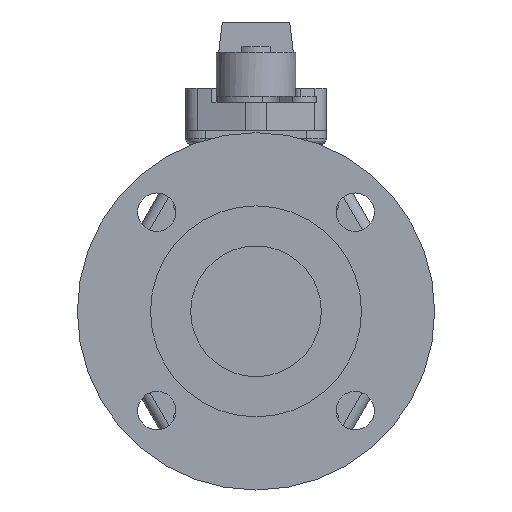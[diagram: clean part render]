
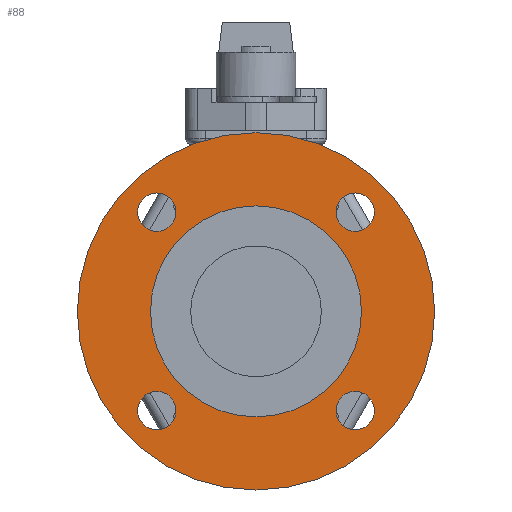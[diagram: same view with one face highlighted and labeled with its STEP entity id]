
A CAD part, left-side view. The second image highlights one B-rep face of the part: STEP entity #88.
In plain terms, the highlighted planar face has unit normal (-1, 0, 0).
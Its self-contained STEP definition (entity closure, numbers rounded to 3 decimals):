
#88=ADVANCED_FACE('',(#463,#464,#465,#466,#467,#468),#462,.T.);
#462=PLANE('',#2888);
#463=FACE_OUTER_BOUND('',#2889,.T.);
#464=FACE_BOUND('',#2890,.T.);
#465=FACE_BOUND('',#2891,.T.);
#466=FACE_BOUND('',#2892,.T.);
#467=FACE_BOUND('',#2893,.T.);
#468=FACE_BOUND('',#2894,.T.);
#2885=CARTESIAN_POINT('',(-93.4,-163.979,-187.8));
#2886=DIRECTION('',(-1.,0.,0.));
#2887=DIRECTION('',(0.,0.,1.));
#2888=AXIS2_PLACEMENT_3D('',#2885,#2886,#2887);
#2889=EDGE_LOOP('',(#4350,#4351));
#2890=EDGE_LOOP('',(#4352,#4353));
#2891=EDGE_LOOP('',(#4354,#4355));
#2892=EDGE_LOOP('',(#4356,#4357));
#2893=EDGE_LOOP('',(#4358,#4359));
#2894=EDGE_LOOP('',(#4360,#4361));
#4350=ORIENTED_EDGE('',*,*,#5582,.T.);
#4351=ORIENTED_EDGE('',*,*,#5583,.T.);
#4352=ORIENTED_EDGE('',*,*,#5584,.F.);
#4353=ORIENTED_EDGE('',*,*,#5585,.F.);
#4354=ORIENTED_EDGE('',*,*,#5586,.F.);
#4355=ORIENTED_EDGE('',*,*,#5587,.F.);
#4356=ORIENTED_EDGE('',*,*,#5588,.F.);
#4357=ORIENTED_EDGE('',*,*,#5589,.F.);
#4358=ORIENTED_EDGE('',*,*,#5590,.F.);
#4359=ORIENTED_EDGE('',*,*,#5591,.F.);
#4360=ORIENTED_EDGE('',*,*,#5592,.F.);
#4361=ORIENTED_EDGE('',*,*,#5593,.F.);
#5582=EDGE_CURVE('',#6911,#6912,#6913,.T.);
#5583=EDGE_CURVE('',#6912,#6911,#6919,.T.);
#5584=EDGE_CURVE('',#6925,#6926,#6927,.T.);
#5585=EDGE_CURVE('',#6926,#6925,#6933,.T.);
#5586=EDGE_CURVE('',#6939,#6940,#6941,.T.);
#5587=EDGE_CURVE('',#6940,#6939,#6947,.T.);
#5588=EDGE_CURVE('',#6953,#6954,#6955,.T.);
#5589=EDGE_CURVE('',#6954,#6953,#6961,.T.);
#5590=EDGE_CURVE('',#6967,#6968,#6969,.T.);
#5591=EDGE_CURVE('',#6968,#6967,#6975,.T.);
#5592=EDGE_CURVE('',#6981,#6982,#6983,.T.);
#5593=EDGE_CURVE('',#6982,#6981,#6989,.T.);
#6911=VERTEX_POINT('',#10723);
#6912=VERTEX_POINT('',#10724);
#6913=CIRCLE('',#10728,88.9);
#6919=CIRCLE('',#10732,88.9);
#6925=VERTEX_POINT('',#10733);
#6926=VERTEX_POINT('',#10734);
#6927=CIRCLE('',#10738,9.55);
#6933=CIRCLE('',#10742,9.55);
#6939=VERTEX_POINT('',#10743);
#6940=VERTEX_POINT('',#10744);
#6941=CIRCLE('',#10748,9.55);
#6947=CIRCLE('',#10752,9.55);
#6953=VERTEX_POINT('',#10753);
#6954=VERTEX_POINT('',#10754);
#6955=CIRCLE('',#10758,9.55);
#6961=CIRCLE('',#10762,9.55);
#6967=VERTEX_POINT('',#10763);
#6968=VERTEX_POINT('',#10764);
#6969=CIRCLE('',#10768,9.55);
#6975=CIRCLE('',#10772,9.55);
#6981=VERTEX_POINT('',#10773);
#6982=VERTEX_POINT('',#10774);
#6983=CIRCLE('',#10778,52.5);
#6989=CIRCLE('',#10782,52.5);
#10723=CARTESIAN_POINT('',(-93.4,0.,88.9));
#10724=CARTESIAN_POINT('',(-93.4,0.,-88.9));
#10725=CARTESIAN_POINT('',(-93.4,0.,0.));
#10726=DIRECTION('',(-1.,0.,0.));
#10727=DIRECTION('',(0.,0.,1.));
#10728=AXIS2_PLACEMENT_3D('',#10725,#10726,#10727);
#10729=CARTESIAN_POINT('',(-93.4,0.,0.));
#10730=DIRECTION('',(-1.,0.,0.));
#10731=DIRECTION('',(0.,0.,1.));
#10732=AXIS2_PLACEMENT_3D('',#10729,#10730,#10731);
#10733=CARTESIAN_POINT('',(-93.4,49.391,-39.841));
#10734=CARTESIAN_POINT('',(-93.4,49.391,-58.941));
#10735=CARTESIAN_POINT('',(-93.4,49.391,-49.391));
#10736=DIRECTION('',(-1.,0.,0.));
#10737=DIRECTION('',(0.,0.,-1.));
#10738=AXIS2_PLACEMENT_3D('',#10735,#10736,#10737);
#10739=CARTESIAN_POINT('',(-93.4,49.391,-49.391));
#10740=DIRECTION('',(-1.,0.,0.));
#10741=DIRECTION('',(0.,0.,-1.));
#10742=AXIS2_PLACEMENT_3D('',#10739,#10740,#10741);
#10743=CARTESIAN_POINT('',(-93.4,-49.391,-58.941));
#10744=CARTESIAN_POINT('',(-93.4,-49.391,-39.841));
#10745=CARTESIAN_POINT('',(-93.4,-49.391,-49.391));
#10746=DIRECTION('',(-1.,0.,0.));
#10747=DIRECTION('',(0.,0.,1.));
#10748=AXIS2_PLACEMENT_3D('',#10745,#10746,#10747);
#10749=CARTESIAN_POINT('',(-93.4,-49.391,-49.391));
#10750=DIRECTION('',(-1.,0.,0.));
#10751=DIRECTION('',(0.,0.,1.));
#10752=AXIS2_PLACEMENT_3D('',#10749,#10750,#10751);
#10753=CARTESIAN_POINT('',(-93.4,-49.391,58.941));
#10754=CARTESIAN_POINT('',(-93.4,-49.391,39.841));
#10755=CARTESIAN_POINT('',(-93.4,-49.391,49.391));
#10756=DIRECTION('',(-1.,0.,0.));
#10757=DIRECTION('',(0.,0.,-1.));
#10758=AXIS2_PLACEMENT_3D('',#10755,#10756,#10757);
#10759=CARTESIAN_POINT('',(-93.4,-49.391,49.391));
#10760=DIRECTION('',(-1.,0.,0.));
#10761=DIRECTION('',(0.,0.,-1.));
#10762=AXIS2_PLACEMENT_3D('',#10759,#10760,#10761);
#10763=CARTESIAN_POINT('',(-93.4,49.391,39.841));
#10764=CARTESIAN_POINT('',(-93.4,49.391,58.941));
#10765=CARTESIAN_POINT('',(-93.4,49.391,49.391));
#10766=DIRECTION('',(-1.,0.,0.));
#10767=DIRECTION('',(0.,0.,1.));
#10768=AXIS2_PLACEMENT_3D('',#10765,#10766,#10767);
#10769=CARTESIAN_POINT('',(-93.4,49.391,49.391));
#10770=DIRECTION('',(-1.,0.,0.));
#10771=DIRECTION('',(0.,0.,1.));
#10772=AXIS2_PLACEMENT_3D('',#10769,#10770,#10771);
#10773=CARTESIAN_POINT('',(-93.4,0.,-52.5));
#10774=CARTESIAN_POINT('',(-93.4,0.,52.5));
#10775=CARTESIAN_POINT('',(-93.4,0.,0.));
#10776=DIRECTION('',(-1.,0.,0.));
#10777=DIRECTION('',(0.,0.,1.));
#10778=AXIS2_PLACEMENT_3D('',#10775,#10776,#10777);
#10779=CARTESIAN_POINT('',(-93.4,0.,0.));
#10780=DIRECTION('',(-1.,0.,0.));
#10781=DIRECTION('',(0.,0.,1.));
#10782=AXIS2_PLACEMENT_3D('',#10779,#10780,#10781);
